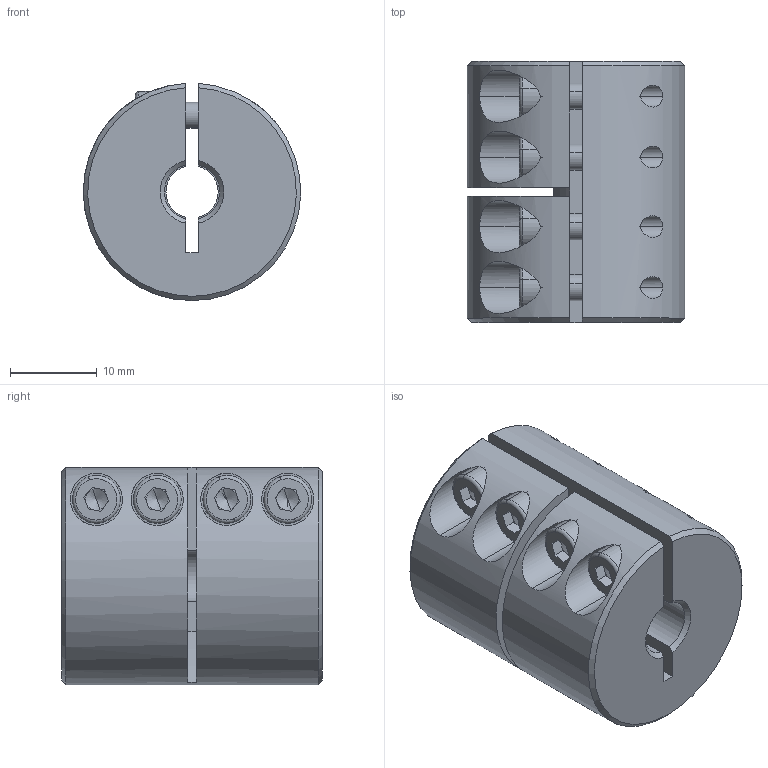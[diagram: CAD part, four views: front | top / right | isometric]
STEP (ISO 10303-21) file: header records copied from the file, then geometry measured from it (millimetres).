
FILE_DESCRIPTION (( 'STEP AP214' ), '1' );
FILE_NAME ('LL-B-D25L30-6-6.35½¨Ä£.STEP', '2022-07-21T03:09:08', ( '' ), ( '' ), 'SwSTEP 2.0', 'SolidWorks 2022', '' );
FILE_SCHEMA (( 'AUTOMOTIVE_DESIGN' ));
Length unit declared in the file: millimetre
Products named in the file (1): LL-B-D25L30-6-6.35膘耀
Bounding box: 24.99 x 30 x 24.98 mm (x, y, z)
Volume: 12607.4 mm3; surface area: 5907.2 mm2
Topology: 1 solids, 1 shells, 164 faces, 418 edges, 264 vertices
Faces by surface type: plane 83, cylinder 58, cone 15, torus 8
Entity records: 5402 total; most frequent: CARTESIAN_POINT 1363, DIRECTION 862, ORIENTED_EDGE 820, EDGE_CURVE 410, AXIS2_PLACEMENT_3D 331, VERTEX_POINT 264, LINE 200, VECTOR 200
